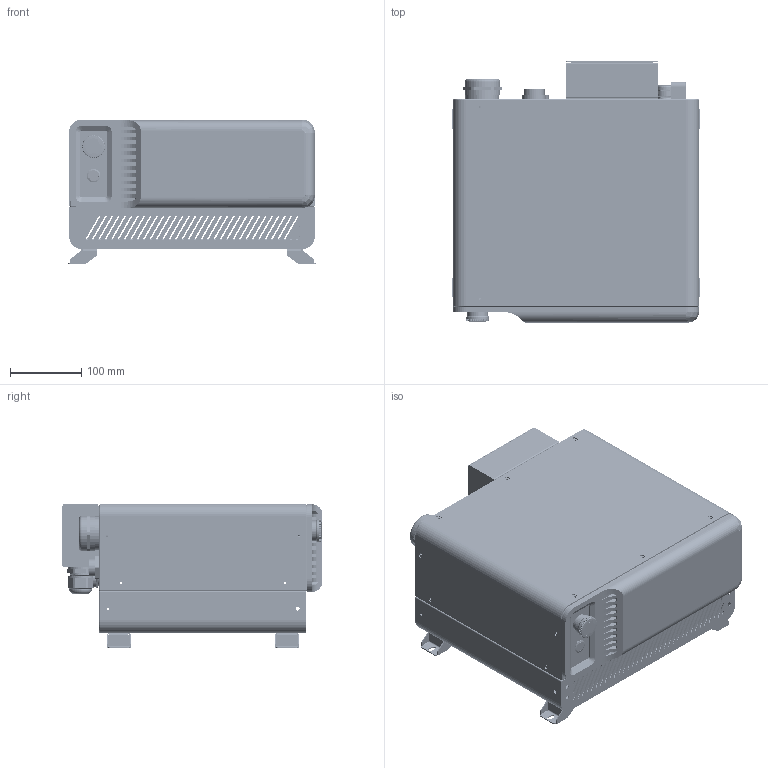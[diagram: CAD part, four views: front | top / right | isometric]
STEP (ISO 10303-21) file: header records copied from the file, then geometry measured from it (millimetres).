
FILE_DESCRIPTION(/* description */ (''),/* implementation_level */ '2;1');
FILE_NAME(/* name */ 'A型电柜.stp',/* time_stamp */ '2025-04-18T10:05:18+08:00',/* author */ (''),/* organization */ (''),/* preprocessor_version */ 'ST-DEVELOPER v16.7',/* originating_system */ 'SIEMENS PLM Software NX 12.0',/* authorisation */ '');
FILE_SCHEMA (('AUTOMOTIVE_DESIGN { 1 0 10303 214 3 1 1 1 }'));
Products named in the file (1): A型电柜
Bounding box: 348.34 x 367.2 x 203.6 mm (x, y, z)
Volume: 1113807.3 mm3; surface area: 1449614.9 mm2
Topology: 122 solids, 126 shells, 18280 faces, 52109 edges, 34280 vertices
Faces by surface type: plane 11849, cylinder 5632, cone 282, torus 225, bspline 195, sphere 95, extrusion 2
Full cylindrical faces by diameter (mm): 2.459 x4, 2.5 x8, 3.242 x56, 3.6 x5, 4 x30, 4.2 x4, 4.475 x5, 4.5 x4, 5 x61, 5.5 x29, 5.816 x8, 5.9 x5, 6 x12, 6.3 x4, 6.32 x10, 7.12 x10, 7.194 x1, 7.9 x46, 8 x1, 9 x2, 12.7 x3, 14.8 x1, 16.5 x2, 16.8 x1, 20.6 x1, 21 x1, 23 x1, 24.7 x1, 24.9 x1, 25 x5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
Entity records: 627205 total; most frequent: CARTESIAN_POINT 143945, ORIENTED_EDGE 103028, DIRECTION 97169, EDGE_CURVE 51514, VECTOR 37267, LINE 37265, VERTEX_POINT 34194, AXIS2_PLACEMENT_3D 29951
